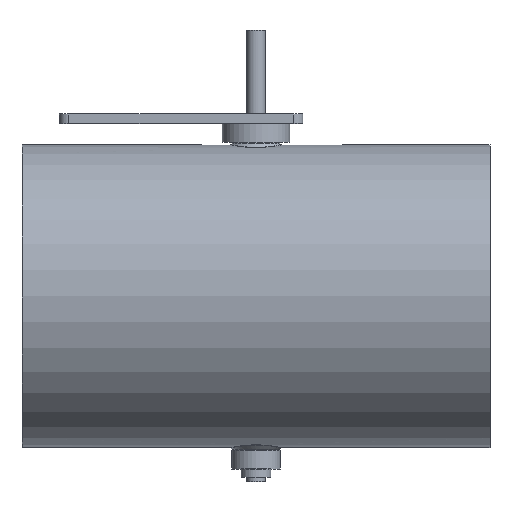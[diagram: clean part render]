
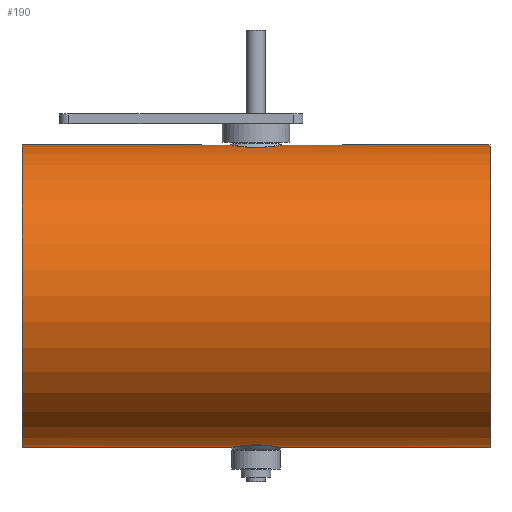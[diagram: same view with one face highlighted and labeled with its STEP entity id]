
A CAD part, top view. The second image highlights one B-rep face of the part: STEP entity #190.
In plain terms, the highlighted cylindrical face has radius 80.8 mm (diameter 161.6 mm), a full revolution.
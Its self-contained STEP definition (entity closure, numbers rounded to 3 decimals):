
#107=B_SPLINE_CURVE_WITH_KNOTS('',3,(#1448,#1449,#1450,#1451,#1452,#1453,
#1454,#1455,#1456,#1457,#1458,#1459,#1460,#1461,#1462,#1463,#1464,#1465,
#1466,#1467,#1468,#1469),.UNSPECIFIED.,.T.,.F.,(2,2,2,2,2,2,2,2,2,2,2,2,
2),(-0.062,0.,0.125,0.25,0.375,0.438,
0.5,0.625,0.75,0.875,0.938,1.,1.125),
 .UNSPECIFIED.);
#108=B_SPLINE_CURVE_WITH_KNOTS('',3,(#1471,#1472,#1473,#1474,#1475,#1476,
#1477,#1478,#1479,#1480,#1481,#1482,#1483,#1484,#1485,#1486,#1487,#1488,
#1489,#1490,#1491,#1492),.UNSPECIFIED.,.T.,.F.,(2,2,2,2,2,2,2,2,2,2,2,2,
2),(-0.125,0.,0.062,0.125,0.25,0.375,0.5,0.563,
0.625,0.75,0.875,1.,1.063),.UNSPECIFIED.);
#139=CYLINDRICAL_SURFACE('',#1011,80.8);
#190=ADVANCED_FACE('',(#335,#336,#337,#338),#139,.T.);
#335=FACE_BOUND('',#457,.T.);
#336=FACE_BOUND('',#458,.T.);
#337=FACE_BOUND('',#459,.T.);
#338=FACE_BOUND('',#460,.T.);
#457=EDGE_LOOP('',(#623));
#458=EDGE_LOOP('',(#624));
#459=EDGE_LOOP('',(#625));
#460=EDGE_LOOP('',(#626));
#623=ORIENTED_EDGE('',*,*,#855,.T.);
#624=ORIENTED_EDGE('',*,*,#856,.T.);
#625=ORIENTED_EDGE('',*,*,#851,.T.);
#626=ORIENTED_EDGE('',*,*,#853,.T.);
#763=VERTEX_POINT('',#1439);
#765=VERTEX_POINT('',#1444);
#767=VERTEX_POINT('',#1470);
#768=VERTEX_POINT('',#1493);
#851=EDGE_CURVE('',#763,#763,#927,.T.);
#853=EDGE_CURVE('',#765,#765,#929,.T.);
#855=EDGE_CURVE('',#767,#767,#107,.T.);
#856=EDGE_CURVE('',#768,#768,#108,.T.);
#927=CIRCLE('',#1005,80.8);
#929=CIRCLE('',#1008,80.8);
#1005=AXIS2_PLACEMENT_3D('',#1438,#1178,#1179);
#1008=AXIS2_PLACEMENT_3D('',#1443,#1184,#1185);
#1011=AXIS2_PLACEMENT_3D('',#1494,#1190,#1191);
#1178=DIRECTION('',(-1.,0.,0.));
#1179=DIRECTION('',(0.,0.,1.));
#1184=DIRECTION('',(1.,0.,0.));
#1185=DIRECTION('',(0.,0.,-1.));
#1190=DIRECTION('',(1.,0.,0.));
#1191=DIRECTION('',(0.,0.,-1.));
#1438=CARTESIAN_POINT('',(125.,-38.3,125.));
#1439=CARTESIAN_POINT('',(125.,-38.3,205.8));
#1443=CARTESIAN_POINT('',(-125.,-38.3,125.));
#1444=CARTESIAN_POINT('',(-125.,-38.3,44.2));
#1448=CARTESIAN_POINT('',(-2.062,-117.599,109.488));
#1449=CARTESIAN_POINT('',(-7.671,-117.937,111.287));
#1450=CARTESIAN_POINT('',(-10.71,-118.443,114.144));
#1451=CARTESIAN_POINT('',(-14.158,-119.079,121.063));
#1452=CARTESIAN_POINT('',(-14.603,-119.187,125.197));
#1453=CARTESIAN_POINT('',(-12.776,-118.819,132.714));
#1454=CARTESIAN_POINT('',(-10.485,-118.352,136.179));
#1455=CARTESIAN_POINT('',(-5.655,-117.819,139.371));
#1456=CARTESIAN_POINT('',(-3.811,-117.676,140.104));
#1457=CARTESIAN_POINT('',(0.052,-117.565,140.679));
#1458=CARTESIAN_POINT('',(2.042,-117.599,140.514));
#1459=CARTESIAN_POINT('',(7.634,-117.934,138.733));
#1460=CARTESIAN_POINT('',(10.688,-118.439,135.895));
#1461=CARTESIAN_POINT('',(14.17,-119.081,128.919));
#1462=CARTESIAN_POINT('',(14.607,-119.188,124.81));
#1463=CARTESIAN_POINT('',(12.77,-118.818,117.267));
#1464=CARTESIAN_POINT('',(10.468,-118.349,113.802));
#1465=CARTESIAN_POINT('',(5.638,-117.818,110.621));
#1466=CARTESIAN_POINT('',(3.774,-117.675,109.887));
#1467=CARTESIAN_POINT('',(-0.058,-117.565,109.324));
#1468=CARTESIAN_POINT('',(-2.062,-117.599,109.488));
#1469=CARTESIAN_POINT('',(-7.671,-117.937,111.287));
#1470=CARTESIAN_POINT('',(-3.932,-117.712,110.088));
#1471=CARTESIAN_POINT('',(-7.672,41.337,111.288));
#1472=CARTESIAN_POINT('',(-2.062,40.999,109.488));
#1473=CARTESIAN_POINT('',(-0.076,40.965,109.323));
#1474=CARTESIAN_POINT('',(3.765,41.074,109.884));
#1475=CARTESIAN_POINT('',(5.623,41.216,110.612));
#1476=CARTESIAN_POINT('',(10.487,41.751,113.813));
#1477=CARTESIAN_POINT('',(12.778,42.219,117.279));
#1478=CARTESIAN_POINT('',(14.609,42.588,124.842));
#1479=CARTESIAN_POINT('',(14.155,42.478,128.954));
#1480=CARTESIAN_POINT('',(10.699,41.841,135.869));
#1481=CARTESIAN_POINT('',(7.658,41.337,138.712));
#1482=CARTESIAN_POINT('',(2.088,41.001,140.505));
#1483=CARTESIAN_POINT('',(0.12,40.964,140.68));
#1484=CARTESIAN_POINT('',(-3.773,41.074,140.118));
#1485=CARTESIAN_POINT('',(-5.62,41.216,139.389));
#1486=CARTESIAN_POINT('',(-10.475,41.749,136.197));
#1487=CARTESIAN_POINT('',(-12.769,42.218,132.74));
#1488=CARTESIAN_POINT('',(-14.61,42.589,125.171));
#1489=CARTESIAN_POINT('',(-14.173,42.481,121.088));
#1490=CARTESIAN_POINT('',(-10.689,41.839,114.106));
#1491=CARTESIAN_POINT('',(-7.672,41.337,111.288));
#1492=CARTESIAN_POINT('',(-2.062,40.999,109.488));
#1493=CARTESIAN_POINT('',(-3.932,41.112,110.088));
#1494=CARTESIAN_POINT('',(-125.,-38.3,125.));
